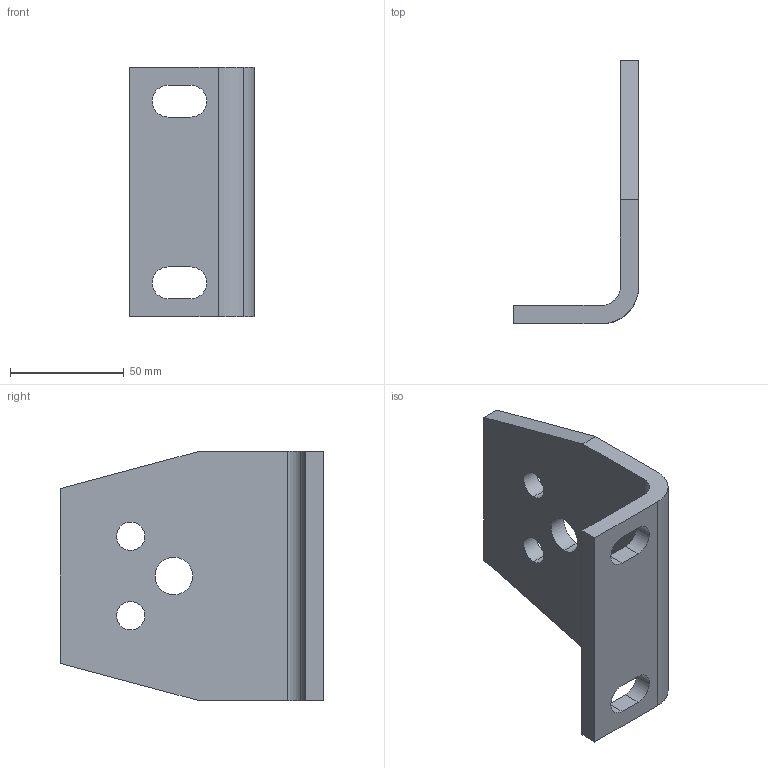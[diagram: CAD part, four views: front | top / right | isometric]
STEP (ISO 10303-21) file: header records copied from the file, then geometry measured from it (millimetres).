
FILE_DESCRIPTION((''),'2;1');
FILE_NAME('D:\ROSTA\Gummifederelemente\3D\WS38-45.stp','2005-02-04T15:48:22',('Administrator'),(''),'Autodesk Inventor 8','Autodesk Inventor 8','');
FILE_SCHEMA(('AUTOMOTIVE_DESIGN { 1 0 10303 214 1 1 1 1 }'));
Length unit declared in the file: millimetre
Products named in the file (1): WS 38-45
Bounding box: 55 x 116 x 110 mm (x, y, z)
Volume: 122402.1 mm3; surface area: 36723.6 mm2
Topology: 1 solids, 1 shells, 28 faces, 78 edges, 52 vertices
Faces by surface type: cylinder 14, plane 14
Entity records: 953 total; most frequent: DIRECTION 164, CARTESIAN_POINT 159, ORIENTED_EDGE 156, EDGE_CURVE 78, AXIS2_PLACEMENT_3D 57, VERTEX_POINT 52, VECTOR 50, LINE 50
